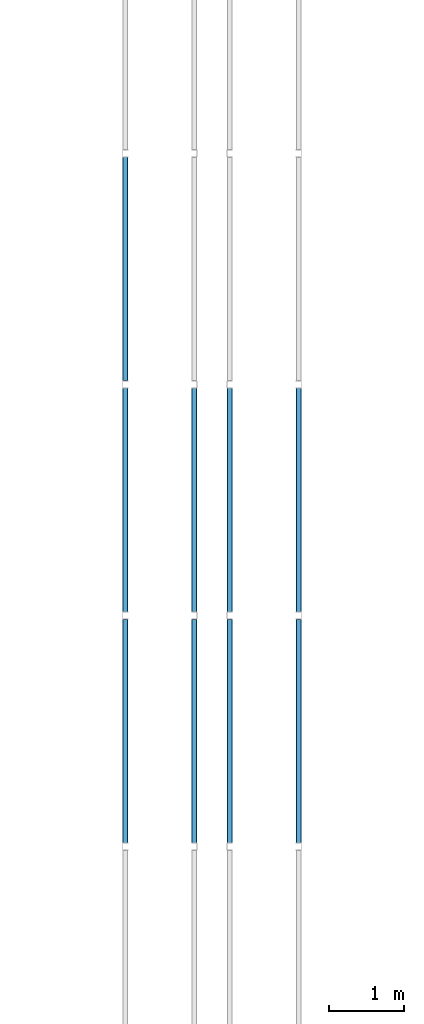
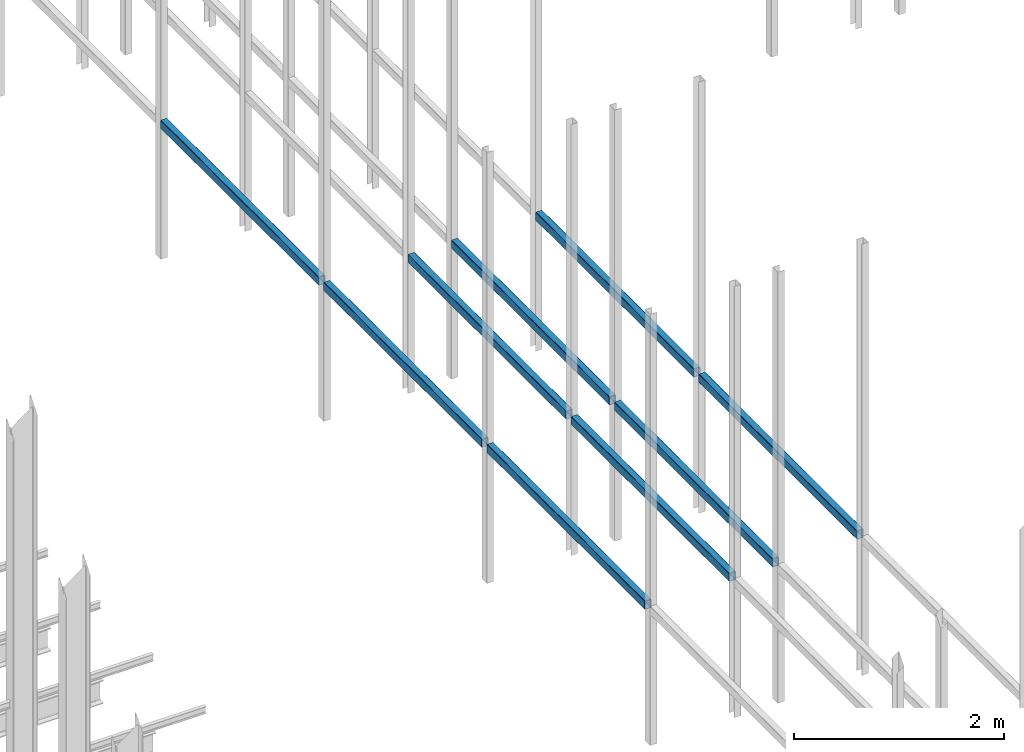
# One storey, part 177 of 302: 9 beams.
"""IFC2X3 building model written with IfcOpenShell, lengths in metres."""

from ifc_helpers import new_model, entity, si_unit, converted_unit, derived_unit, direction, frame, frame_2d, origin, place, context, subcontext, project, spatial, polyline, circle_curve, parameter, trimmed, segment, composite_curve, outline, extrude, material, type_object, element, save


model = new_model("IFC2X3")

# Units and contexts
model_context = context("Model", 3, precision=1e-05, world=origin(), true_north=direction((6.12303176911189e-17, 1.0)))
body_context = subcontext(model_context, "Body", "Model", "MODEL_VIEW")
ifc_project = project(units=[si_unit("LENGTHUNIT", "METRE"), si_unit("AREAUNIT", "SQUARE_METRE"), si_unit("VOLUMEUNIT", "CUBIC_METRE"), converted_unit("PLANEANGLEUNIT", "DEGREE", entity("IfcRatioMeasure", 0.0174532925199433), si_unit("PLANEANGLEUNIT", "RADIAN"), dimensions=[0, 0, 0, 0, 0, 0, 0]), si_unit("MASSUNIT", "GRAM", prefix="KILO"), derived_unit("MASSDENSITYUNIT", [(si_unit("MASSUNIT", "GRAM", prefix="KILO"), 1), (si_unit("LENGTHUNIT", "METRE"), -3)]), derived_unit("MOMENTOFINERTIAUNIT", [(si_unit("LENGTHUNIT", "METRE"), 4)]), si_unit("TIMEUNIT", "SECOND"), si_unit("FREQUENCYUNIT", "HERTZ"), si_unit("THERMODYNAMICTEMPERATUREUNIT", "DEGREE_CELSIUS"), derived_unit("THERMALTRANSMITTANCEUNIT", [(si_unit("MASSUNIT", "GRAM", prefix="KILO"), 1), (si_unit("THERMODYNAMICTEMPERATUREUNIT", "KELVIN"), -1), (si_unit("TIMEUNIT", "SECOND"), -3)]), derived_unit("VOLUMETRICFLOWRATEUNIT", [(si_unit("LENGTHUNIT", "METRE"), 3), (si_unit("TIMEUNIT", "SECOND"), -1)]), si_unit("ELECTRICCURRENTUNIT", "AMPERE"), si_unit("ELECTRICVOLTAGEUNIT", "VOLT"), si_unit("POWERUNIT", "WATT"), si_unit("FORCEUNIT", "NEWTON", prefix="KILO"), si_unit("ILLUMINANCEUNIT", "LUX"), si_unit("LUMINOUSFLUXUNIT", "LUMEN"), si_unit("LUMINOUSINTENSITYUNIT", "CANDELA"), derived_unit("USERDEFINED", [(si_unit("MASSUNIT", "GRAM", prefix="KILO"), -1), (si_unit("LENGTHUNIT", "METRE"), -2), (si_unit("TIMEUNIT", "SECOND"), 3), (si_unit("LUMINOUSFLUXUNIT", "LUMEN"), 1)]), derived_unit("LINEARVELOCITYUNIT", [(si_unit("LENGTHUNIT", "METRE"), 1), (si_unit("TIMEUNIT", "SECOND"), -1)]), si_unit("PRESSUREUNIT", "PASCAL"), derived_unit("USERDEFINED", [(si_unit("LENGTHUNIT", "METRE"), -2), (si_unit("MASSUNIT", "GRAM", prefix="KILO"), 1), (si_unit("TIMEUNIT", "SECOND"), -2)]), derived_unit("LINEARFORCEUNIT", [(si_unit("MASSUNIT", "GRAM", prefix="KILO"), 1), (si_unit("LENGTHUNIT", "METRE"), 1), (si_unit("TIMEUNIT", "SECOND"), -2), (si_unit("LENGTHUNIT", "METRE"), -1)]), derived_unit("PLANARFORCEUNIT", [(si_unit("MASSUNIT", "GRAM", prefix="KILO"), 1), (si_unit("LENGTHUNIT", "METRE"), 1), (si_unit("TIMEUNIT", "SECOND"), -2), (si_unit("LENGTHUNIT", "METRE"), -2)])], contexts=[model_context])

# Site, building, storey
site_placement = place(None, origin())
site = spatial("IfcSite", under=ifc_project, at=site_placement, Name="Default", CompositionType="ELEMENT")
building_placement = place(site_placement, origin())
building = spatial("IfcBuilding", under=site, at=building_placement, CompositionType="ELEMENT")
storey_placement = place(building_placement, frame((0.0, 0.0, -1.3)))
storey = spatial("IfcBuildingStorey", under=building, at=storey_placement, Name="00_EG", CompositionType="ELEMENT", Elevation=-1.3)

# Beams
ifc_material = material(Name="Metall - Baustahl S235 blau")
beam_type = type_object("IfcBeamType", Name="RHS Träger (EN 10219-2):RHS 100 x 75 x 5", PredefinedType="NOTDEFINED")
beam_1_placement = place(storey_placement, frame((-159.118311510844, 32.8480889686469, 2.885), z_axis=(0.0, 0.0, 1.0), x_axis=(0.0, 1.0, 0.0)))
element("IfcBeam", 1, at=beam_1_placement, inside=storey, type_object=beam_type, material=ifc_material, Name="RHS Träger (EN 10219-2):RHS 100 x 75 x 5", ObjectType="RHS Träger (EN 10219-2):RHS 100 x 75 x 5", context=body_context, shape_type="SweptSolid", body=[
    extrude(outline(composite_curve([segment(trimmed(circle_curve(frame_2d((-0.0274999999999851, -0.0400000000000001), x_axis=(1.0, 0.0)), 0.01), [parameter(180.0)], [parameter(270.0)], True, "PARAMETER"), True, "CONTINUOUS"), segment(polyline([(-0.0274999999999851, -0.05), (0.0274999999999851, -0.05)]), True, "CONTINUOUS"), segment(trimmed(circle_curve(frame_2d((0.0274999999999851, -0.0400000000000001), x_axis=(1.0, 0.0)), 0.01), [parameter(270.0)], [parameter(5.08888749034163e-14)], True, "PARAMETER"), True, "CONTINUOUS"), segment(polyline([(0.0375000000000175, -0.0399999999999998), (0.0375000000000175, 0.0400000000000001)]), True, "CONTINUOUS"), segment(trimmed(circle_curve(frame_2d((0.0274999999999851, 0.0399999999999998), x_axis=(1.0, 0.0)), 0.01), [parameter(360.0)], [parameter(89.9999999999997)], True, "PARAMETER"), True, "CONTINUOUS"), segment(polyline([(0.0274999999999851, 0.05), (-0.0274999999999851, 0.05)]), True, "CONTINUOUS"), segment(trimmed(circle_curve(frame_2d((-0.0274999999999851, 0.0399999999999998), x_axis=(1.0, 0.0)), 0.01), [parameter(90.0000000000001)], [parameter(180.0)], True, "PARAMETER"), True, "CONTINUOUS"), segment(polyline([(-0.0374999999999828, 0.0400000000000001), (-0.0374999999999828, -0.0399999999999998)]), True, "CONTINUOUS")], self_intersect=False), holes=[composite_curve([segment(polyline([(0.0274999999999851, -0.0450000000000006), (-0.0274999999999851, -0.0450000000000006)]), True, "CONTINUOUS"), segment(trimmed(circle_curve(frame_2d((-0.0274999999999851, -0.0400000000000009), x_axis=(1.0, 0.0)), 0.005), [parameter(180.0)], [parameter(270.0)], True, "PARAMETER"), False, "CONTINUOUS"), segment(polyline([(-0.0325000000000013, -0.0400000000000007), (-0.0325000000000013, 0.0399999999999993)]), True, "CONTINUOUS"), segment(trimmed(circle_curve(frame_2d((-0.0274999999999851, 0.039999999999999), x_axis=(1.0, 0.0)), 0.005), [parameter(90.0000000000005)], [parameter(180.0)], True, "PARAMETER"), False, "CONTINUOUS"), segment(polyline([(-0.0274999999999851, 0.0449999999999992), (0.0274999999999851, 0.0449999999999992)]), True, "CONTINUOUS"), segment(trimmed(circle_curve(frame_2d((0.0274999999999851, 0.039999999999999), x_axis=(1.0, 0.0)), 0.005), [parameter(0.0)], [parameter(90.0000000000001)], True, "PARAMETER"), False, "CONTINUOUS"), segment(polyline([(0.0325000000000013, 0.0399999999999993), (0.0325000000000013, -0.0400000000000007)]), True, "CONTINUOUS"), segment(trimmed(circle_curve(frame_2d((0.0274999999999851, -0.0400000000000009), x_axis=(1.0, 0.0)), 0.005), [parameter(270.0)], [parameter(4.07110999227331e-13)], True, "PARAMETER"), False, "CONTINUOUS")], self_intersect=False)]), frame((9.99999999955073e-05, 0.0375000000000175, -0.0500000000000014), z_axis=(1.0, 0.0, 0.0), x_axis=(0.0, -1.0, 0.0)), (0.0, 0.0, 1.0), 2.9998),
])
beam_2_placement = place(storey_placement, frame((-158.268311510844, 32.8480889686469, 2.885), z_axis=(0.0, 0.0, 1.0), x_axis=(0.0, 1.0, 0.0)))
element("IfcBeam", 2, at=beam_2_placement, inside=storey, type_object=beam_type, material=ifc_material, Name="RHS Träger (EN 10219-2):RHS 100 x 75 x 5", ObjectType="RHS Träger (EN 10219-2):RHS 100 x 75 x 5", context=body_context, shape_type="SweptSolid", body=[
    extrude(outline(composite_curve([segment(polyline([(-0.0399999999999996, -0.0375000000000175), (0.0400000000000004, -0.0375000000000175)]), True, "CONTINUOUS"), segment(trimmed(circle_curve(frame_2d((0.0400000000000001, -0.0275000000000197), x_axis=(0.0, 1.0)), 0.01), [parameter(180.0)], [parameter(270.0)], True, "PARAMETER"), True, "CONTINUOUS"), segment(polyline([(0.0500000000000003, -0.0275000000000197), (0.0500000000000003, 0.0274999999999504)]), True, "CONTINUOUS"), segment(trimmed(circle_curve(frame_2d((0.0400000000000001, 0.0274999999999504), x_axis=(0.0, 1.0)), 0.01), [parameter(270.0)], [parameter(4.07110999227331e-13)], True, "PARAMETER"), True, "CONTINUOUS"), segment(polyline([(0.0400000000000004, 0.0374999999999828), (-0.0399999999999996, 0.0374999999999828)]), True, "CONTINUOUS"), segment(trimmed(circle_curve(frame_2d((-0.0399999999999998, 0.0274999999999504), x_axis=(0.0, 1.0)), 0.01), [parameter(360.0)], [parameter(90.0000000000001)], True, "PARAMETER"), True, "CONTINUOUS"), segment(polyline([(-0.0499999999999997, 0.0274999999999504), (-0.0499999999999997, -0.0275000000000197)]), True, "CONTINUOUS"), segment(trimmed(circle_curve(frame_2d((-0.0399999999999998, -0.0275000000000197), x_axis=(0.0, 1.0)), 0.01), [parameter(90.0000000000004)], [parameter(180.0)], True, "PARAMETER"), True, "CONTINUOUS")], self_intersect=False), holes=[composite_curve([segment(trimmed(circle_curve(frame_2d((-0.0400000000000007, 0.0274999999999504), x_axis=(0.0, 1.0)), 0.005), [parameter(360.0)], [parameter(89.9999999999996)], True, "PARAMETER"), False, "CONTINUOUS"), segment(polyline([(-0.0400000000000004, 0.0324999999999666), (0.0399999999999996, 0.0324999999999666)]), True, "CONTINUOUS"), segment(trimmed(circle_curve(frame_2d((0.0399999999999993, 0.0274999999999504), x_axis=(0.0, 1.0)), 0.005), [parameter(270.0)], [parameter(0.0)], True, "PARAMETER"), False, "CONTINUOUS"), segment(polyline([(0.0449999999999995, 0.0274999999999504), (0.0449999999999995, -0.0275000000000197)]), True, "CONTINUOUS"), segment(trimmed(circle_curve(frame_2d((0.0399999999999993, -0.0275000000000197), x_axis=(0.0, 1.0)), 0.005), [parameter(180.0)], [parameter(269.999999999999)], True, "PARAMETER"), False, "CONTINUOUS"), segment(polyline([(0.0399999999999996, -0.0325000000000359), (-0.0400000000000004, -0.0325000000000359)]), True, "CONTINUOUS"), segment(trimmed(circle_curve(frame_2d((-0.0400000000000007, -0.0275000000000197), x_axis=(0.0, 1.0)), 0.005), [parameter(90.0000000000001)], [parameter(180.0)], True, "PARAMETER"), False, "CONTINUOUS"), segment(polyline([(-0.0450000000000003, -0.0275000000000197), (-0.0450000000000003, 0.0274999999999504)]), True, "CONTINUOUS")], self_intersect=False)]), frame((9.99999999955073e-05, -0.0374999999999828, -0.0500000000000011), z_axis=(1.0, 0.0, 0.0), x_axis=(0.0, 0.0, -1.0)), (0.0, 0.0, 1.0), 2.9998),
])
beam_3_placement = place(storey_placement, frame((-157.718311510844, 32.8480889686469, 2.885), z_axis=(0.0, 0.0, 1.0), x_axis=(0.0, 1.0, 0.0)))
element("IfcBeam", 3, at=beam_3_placement, inside=storey, type_object=beam_type, material=ifc_material, Name="RHS Träger (EN 10219-2):RHS 100 x 75 x 5", ObjectType="RHS Träger (EN 10219-2):RHS 100 x 75 x 5", context=body_context, shape_type="SweptSolid", body=[
    extrude(outline(composite_curve([segment(trimmed(circle_curve(frame_2d((-0.0274999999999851, -0.0400000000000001), x_axis=(1.0, 0.0)), 0.01), [parameter(180.0)], [parameter(270.0)], True, "PARAMETER"), True, "CONTINUOUS"), segment(polyline([(-0.0274999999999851, -0.05), (0.0274999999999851, -0.05)]), True, "CONTINUOUS"), segment(trimmed(circle_curve(frame_2d((0.0274999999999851, -0.0400000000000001), x_axis=(1.0, 0.0)), 0.01), [parameter(270.0)], [parameter(5.08888749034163e-14)], True, "PARAMETER"), True, "CONTINUOUS"), segment(polyline([(0.0375000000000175, -0.0399999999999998), (0.0375000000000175, 0.0400000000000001)]), True, "CONTINUOUS"), segment(trimmed(circle_curve(frame_2d((0.0274999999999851, 0.0399999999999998), x_axis=(1.0, 0.0)), 0.01), [parameter(360.0)], [parameter(89.9999999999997)], True, "PARAMETER"), True, "CONTINUOUS"), segment(polyline([(0.0274999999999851, 0.05), (-0.0274999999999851, 0.05)]), True, "CONTINUOUS"), segment(trimmed(circle_curve(frame_2d((-0.0274999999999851, 0.0399999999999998), x_axis=(1.0, 0.0)), 0.01), [parameter(90.0000000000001)], [parameter(180.0)], True, "PARAMETER"), True, "CONTINUOUS"), segment(polyline([(-0.0374999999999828, 0.0400000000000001), (-0.0374999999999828, -0.0399999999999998)]), True, "CONTINUOUS")], self_intersect=False), holes=[composite_curve([segment(polyline([(0.0274999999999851, -0.0450000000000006), (-0.0274999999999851, -0.0450000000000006)]), True, "CONTINUOUS"), segment(trimmed(circle_curve(frame_2d((-0.0274999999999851, -0.0400000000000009), x_axis=(1.0, 0.0)), 0.005), [parameter(180.0)], [parameter(270.0)], True, "PARAMETER"), False, "CONTINUOUS"), segment(polyline([(-0.0325000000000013, -0.0400000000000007), (-0.0325000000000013, 0.0399999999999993)]), True, "CONTINUOUS"), segment(trimmed(circle_curve(frame_2d((-0.0274999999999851, 0.039999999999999), x_axis=(1.0, 0.0)), 0.005), [parameter(90.0000000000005)], [parameter(180.0)], True, "PARAMETER"), False, "CONTINUOUS"), segment(polyline([(-0.0274999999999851, 0.0449999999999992), (0.0274999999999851, 0.0449999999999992)]), True, "CONTINUOUS"), segment(trimmed(circle_curve(frame_2d((0.0274999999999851, 0.039999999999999), x_axis=(1.0, 0.0)), 0.005), [parameter(0.0)], [parameter(90.0000000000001)], True, "PARAMETER"), False, "CONTINUOUS"), segment(polyline([(0.0325000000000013, 0.0399999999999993), (0.0325000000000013, -0.0400000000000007)]), True, "CONTINUOUS"), segment(trimmed(circle_curve(frame_2d((0.0274999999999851, -0.0400000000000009), x_axis=(1.0, 0.0)), 0.005), [parameter(270.0)], [parameter(4.07110999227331e-13)], True, "PARAMETER"), False, "CONTINUOUS")], self_intersect=False)]), frame((9.99999999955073e-05, 0.0375000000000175, -0.0500000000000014), z_axis=(1.0, 0.0, 0.0), x_axis=(0.0, -1.0, 0.0)), (0.0, 0.0, 1.0), 2.9998),
])
beam_4_placement = place(storey_placement, frame((-156.868311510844, 32.8480889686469, 2.885), z_axis=(0.0, 0.0, 1.0), x_axis=(0.0, 1.0, 0.0)))
element("IfcBeam", 4, at=beam_4_placement, inside=storey, type_object=beam_type, material=ifc_material, Name="RHS Träger (EN 10219-2):RHS 100 x 75 x 5", ObjectType="RHS Träger (EN 10219-2):RHS 100 x 75 x 5", context=body_context, shape_type="SweptSolid", body=[
    extrude(outline(composite_curve([segment(polyline([(-0.0399999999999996, -0.0374999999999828), (0.0400000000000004, -0.0374999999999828)]), True, "CONTINUOUS"), segment(trimmed(circle_curve(frame_2d((0.0400000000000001, -0.0274999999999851), x_axis=(0.0, 1.0)), 0.01), [parameter(180.0)], [parameter(270.0)], True, "PARAMETER"), True, "CONTINUOUS"), segment(polyline([(0.0500000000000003, -0.0274999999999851), (0.0500000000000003, 0.0274999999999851)]), True, "CONTINUOUS"), segment(trimmed(circle_curve(frame_2d((0.0400000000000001, 0.0274999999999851), x_axis=(0.0, 1.0)), 0.01), [parameter(270.0)], [parameter(4.07110999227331e-13)], True, "PARAMETER"), True, "CONTINUOUS"), segment(polyline([(0.0400000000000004, 0.0375000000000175), (-0.0399999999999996, 0.0375000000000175)]), True, "CONTINUOUS"), segment(trimmed(circle_curve(frame_2d((-0.0399999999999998, 0.0274999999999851), x_axis=(0.0, 1.0)), 0.01), [parameter(360.0)], [parameter(90.0000000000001)], True, "PARAMETER"), True, "CONTINUOUS"), segment(polyline([(-0.0499999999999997, 0.0274999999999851), (-0.0499999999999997, -0.0274999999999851)]), True, "CONTINUOUS"), segment(trimmed(circle_curve(frame_2d((-0.0399999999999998, -0.0274999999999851), x_axis=(0.0, 1.0)), 0.01), [parameter(90.0000000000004)], [parameter(180.0)], True, "PARAMETER"), True, "CONTINUOUS")], self_intersect=False), holes=[composite_curve([segment(trimmed(circle_curve(frame_2d((-0.0400000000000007, 0.0274999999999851), x_axis=(0.0, 1.0)), 0.005), [parameter(360.0)], [parameter(89.9999999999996)], True, "PARAMETER"), False, "CONTINUOUS"), segment(polyline([(-0.0400000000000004, 0.0325000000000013), (0.0399999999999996, 0.0325000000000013)]), True, "CONTINUOUS"), segment(trimmed(circle_curve(frame_2d((0.0399999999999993, 0.0274999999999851), x_axis=(0.0, 1.0)), 0.005), [parameter(270.0)], [parameter(0.0)], True, "PARAMETER"), False, "CONTINUOUS"), segment(polyline([(0.0449999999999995, 0.0274999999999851), (0.0449999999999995, -0.0274999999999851)]), True, "CONTINUOUS"), segment(trimmed(circle_curve(frame_2d((0.0399999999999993, -0.0274999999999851), x_axis=(0.0, 1.0)), 0.005), [parameter(180.0)], [parameter(269.999999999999)], True, "PARAMETER"), False, "CONTINUOUS"), segment(polyline([(0.0399999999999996, -0.0325000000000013), (-0.0400000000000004, -0.0325000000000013)]), True, "CONTINUOUS"), segment(trimmed(circle_curve(frame_2d((-0.0400000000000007, -0.0274999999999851), x_axis=(0.0, 1.0)), 0.005), [parameter(90.0000000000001)], [parameter(180.0)], True, "PARAMETER"), False, "CONTINUOUS"), segment(polyline([(-0.0450000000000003, -0.0274999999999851), (-0.0450000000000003, 0.0274999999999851)]), True, "CONTINUOUS")], self_intersect=False)]), frame((9.99999999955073e-05, -0.0375000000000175, -0.0500000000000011), z_axis=(1.0, 0.0, 0.0), x_axis=(0.0, 0.0, -1.0)), (0.0, 0.0, 1.0), 2.9998),
])
beam_5_placement = place(storey_placement, frame((-159.118311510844, 35.9480889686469, 2.885), z_axis=(0.0, 0.0, 1.0), x_axis=(0.0, 1.0, 0.0)))
element("IfcBeam", 5, at=beam_5_placement, inside=storey, type_object=beam_type, material=ifc_material, Name="RHS Träger (EN 10219-2):RHS 100 x 75 x 5", ObjectType="RHS Träger (EN 10219-2):RHS 100 x 75 x 5", context=body_context, shape_type="SweptSolid", body=[
    extrude(outline(composite_curve([segment(trimmed(circle_curve(frame_2d((-0.0274999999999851, -0.0400000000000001), x_axis=(1.0, 0.0)), 0.01), [parameter(180.0)], [parameter(270.0)], True, "PARAMETER"), True, "CONTINUOUS"), segment(polyline([(-0.0274999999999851, -0.05), (0.0274999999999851, -0.05)]), True, "CONTINUOUS"), segment(trimmed(circle_curve(frame_2d((0.0274999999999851, -0.0400000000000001), x_axis=(1.0, 0.0)), 0.01), [parameter(270.0)], [parameter(5.08888749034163e-14)], True, "PARAMETER"), True, "CONTINUOUS"), segment(polyline([(0.0375000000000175, -0.0399999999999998), (0.0375000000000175, 0.0400000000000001)]), True, "CONTINUOUS"), segment(trimmed(circle_curve(frame_2d((0.0274999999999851, 0.0399999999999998), x_axis=(1.0, 0.0)), 0.01), [parameter(360.0)], [parameter(89.9999999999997)], True, "PARAMETER"), True, "CONTINUOUS"), segment(polyline([(0.0274999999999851, 0.05), (-0.0274999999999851, 0.05)]), True, "CONTINUOUS"), segment(trimmed(circle_curve(frame_2d((-0.0274999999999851, 0.0399999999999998), x_axis=(1.0, 0.0)), 0.01), [parameter(90.0000000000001)], [parameter(180.0)], True, "PARAMETER"), True, "CONTINUOUS"), segment(polyline([(-0.0374999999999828, 0.0400000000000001), (-0.0374999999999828, -0.0399999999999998)]), True, "CONTINUOUS")], self_intersect=False), holes=[composite_curve([segment(polyline([(0.0274999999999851, -0.0450000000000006), (-0.0274999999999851, -0.0450000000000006)]), True, "CONTINUOUS"), segment(trimmed(circle_curve(frame_2d((-0.0274999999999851, -0.0400000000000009), x_axis=(1.0, 0.0)), 0.005), [parameter(180.0)], [parameter(270.0)], True, "PARAMETER"), False, "CONTINUOUS"), segment(polyline([(-0.0325000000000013, -0.0400000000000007), (-0.0325000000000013, 0.0399999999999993)]), True, "CONTINUOUS"), segment(trimmed(circle_curve(frame_2d((-0.0274999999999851, 0.039999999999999), x_axis=(1.0, 0.0)), 0.005), [parameter(90.0000000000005)], [parameter(180.0)], True, "PARAMETER"), False, "CONTINUOUS"), segment(polyline([(-0.0274999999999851, 0.0449999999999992), (0.0274999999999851, 0.0449999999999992)]), True, "CONTINUOUS"), segment(trimmed(circle_curve(frame_2d((0.0274999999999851, 0.039999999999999), x_axis=(1.0, 0.0)), 0.005), [parameter(0.0)], [parameter(90.0000000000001)], True, "PARAMETER"), False, "CONTINUOUS"), segment(polyline([(0.0325000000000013, 0.0399999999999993), (0.0325000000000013, -0.0400000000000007)]), True, "CONTINUOUS"), segment(trimmed(circle_curve(frame_2d((0.0274999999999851, -0.0400000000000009), x_axis=(1.0, 0.0)), 0.005), [parameter(270.0)], [parameter(4.07110999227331e-13)], True, "PARAMETER"), False, "CONTINUOUS")], self_intersect=False)]), frame((9.99999999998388e-05, 0.0375000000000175, -0.0500000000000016), z_axis=(1.0, 0.0, 0.0), x_axis=(0.0, -1.0, 0.0)), (0.0, 0.0, 1.0), 2.9998),
])
beam_6_placement = place(storey_placement, frame((-158.268311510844, 35.9480889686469, 2.885), z_axis=(0.0, 0.0, 1.0), x_axis=(0.0, 1.0, 0.0)))
element("IfcBeam", 6, at=beam_6_placement, inside=storey, type_object=beam_type, material=ifc_material, Name="RHS Träger (EN 10219-2):RHS 100 x 75 x 5", ObjectType="RHS Träger (EN 10219-2):RHS 100 x 75 x 5", context=body_context, shape_type="SweptSolid", body=[
    extrude(outline(composite_curve([segment(polyline([(-0.0399999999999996, -0.0375000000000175), (0.0400000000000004, -0.0375000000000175)]), True, "CONTINUOUS"), segment(trimmed(circle_curve(frame_2d((0.0400000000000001, -0.0275000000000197), x_axis=(0.0, 1.0)), 0.01), [parameter(180.0)], [parameter(270.0)], True, "PARAMETER"), True, "CONTINUOUS"), segment(polyline([(0.0500000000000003, -0.0275000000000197), (0.0500000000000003, 0.0274999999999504)]), True, "CONTINUOUS"), segment(trimmed(circle_curve(frame_2d((0.0400000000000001, 0.0274999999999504), x_axis=(0.0, 1.0)), 0.01), [parameter(270.0)], [parameter(4.07110999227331e-13)], True, "PARAMETER"), True, "CONTINUOUS"), segment(polyline([(0.0400000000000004, 0.0374999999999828), (-0.0399999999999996, 0.0374999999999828)]), True, "CONTINUOUS"), segment(trimmed(circle_curve(frame_2d((-0.0399999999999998, 0.0274999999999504), x_axis=(0.0, 1.0)), 0.01), [parameter(360.0)], [parameter(90.0000000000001)], True, "PARAMETER"), True, "CONTINUOUS"), segment(polyline([(-0.0499999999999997, 0.0274999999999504), (-0.0499999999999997, -0.0275000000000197)]), True, "CONTINUOUS"), segment(trimmed(circle_curve(frame_2d((-0.0399999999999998, -0.0275000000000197), x_axis=(0.0, 1.0)), 0.01), [parameter(90.0000000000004)], [parameter(180.0)], True, "PARAMETER"), True, "CONTINUOUS")], self_intersect=False), holes=[composite_curve([segment(trimmed(circle_curve(frame_2d((-0.0400000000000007, 0.0274999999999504), x_axis=(0.0, 1.0)), 0.005), [parameter(360.0)], [parameter(89.9999999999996)], True, "PARAMETER"), False, "CONTINUOUS"), segment(polyline([(-0.0400000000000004, 0.0324999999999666), (0.0399999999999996, 0.0324999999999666)]), True, "CONTINUOUS"), segment(trimmed(circle_curve(frame_2d((0.0399999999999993, 0.0274999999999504), x_axis=(0.0, 1.0)), 0.005), [parameter(270.0)], [parameter(0.0)], True, "PARAMETER"), False, "CONTINUOUS"), segment(polyline([(0.0449999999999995, 0.0274999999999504), (0.0449999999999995, -0.0275000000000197)]), True, "CONTINUOUS"), segment(trimmed(circle_curve(frame_2d((0.0399999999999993, -0.0275000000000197), x_axis=(0.0, 1.0)), 0.005), [parameter(180.0)], [parameter(269.999999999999)], True, "PARAMETER"), False, "CONTINUOUS"), segment(polyline([(0.0399999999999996, -0.0325000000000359), (-0.0400000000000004, -0.0325000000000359)]), True, "CONTINUOUS"), segment(trimmed(circle_curve(frame_2d((-0.0400000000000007, -0.0275000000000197), x_axis=(0.0, 1.0)), 0.005), [parameter(90.0000000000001)], [parameter(180.0)], True, "PARAMETER"), False, "CONTINUOUS"), segment(polyline([(-0.0450000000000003, -0.0275000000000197), (-0.0450000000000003, 0.0274999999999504)]), True, "CONTINUOUS")], self_intersect=False)]), frame((9.99999999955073e-05, -0.0374999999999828, -0.0500000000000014), z_axis=(1.0, 0.0, 0.0), x_axis=(0.0, 0.0, -1.0)), (0.0, 0.0, 1.0), 2.9998),
])
beam_7_placement = place(storey_placement, frame((-157.718311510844, 35.9480889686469, 2.885), z_axis=(0.0, 0.0, 1.0), x_axis=(0.0, 1.0, 0.0)))
element("IfcBeam", 7, at=beam_7_placement, inside=storey, type_object=beam_type, material=ifc_material, Name="RHS Träger (EN 10219-2):RHS 100 x 75 x 5", ObjectType="RHS Träger (EN 10219-2):RHS 100 x 75 x 5", context=body_context, shape_type="SweptSolid", body=[
    extrude(outline(composite_curve([segment(trimmed(circle_curve(frame_2d((-0.0274999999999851, -0.0400000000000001), x_axis=(1.0, 0.0)), 0.01), [parameter(180.0)], [parameter(270.0)], True, "PARAMETER"), True, "CONTINUOUS"), segment(polyline([(-0.0274999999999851, -0.05), (0.0274999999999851, -0.05)]), True, "CONTINUOUS"), segment(trimmed(circle_curve(frame_2d((0.0274999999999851, -0.0400000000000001), x_axis=(1.0, 0.0)), 0.01), [parameter(270.0)], [parameter(5.08888749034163e-14)], True, "PARAMETER"), True, "CONTINUOUS"), segment(polyline([(0.0375000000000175, -0.0399999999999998), (0.0375000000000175, 0.0400000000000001)]), True, "CONTINUOUS"), segment(trimmed(circle_curve(frame_2d((0.0274999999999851, 0.0399999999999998), x_axis=(1.0, 0.0)), 0.01), [parameter(360.0)], [parameter(89.9999999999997)], True, "PARAMETER"), True, "CONTINUOUS"), segment(polyline([(0.0274999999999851, 0.05), (-0.0274999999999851, 0.05)]), True, "CONTINUOUS"), segment(trimmed(circle_curve(frame_2d((-0.0274999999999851, 0.0399999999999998), x_axis=(1.0, 0.0)), 0.01), [parameter(90.0000000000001)], [parameter(180.0)], True, "PARAMETER"), True, "CONTINUOUS"), segment(polyline([(-0.0374999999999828, 0.0400000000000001), (-0.0374999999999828, -0.0399999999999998)]), True, "CONTINUOUS")], self_intersect=False), holes=[composite_curve([segment(polyline([(0.0274999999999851, -0.0450000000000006), (-0.0274999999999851, -0.0450000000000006)]), True, "CONTINUOUS"), segment(trimmed(circle_curve(frame_2d((-0.0274999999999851, -0.0400000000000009), x_axis=(1.0, 0.0)), 0.005), [parameter(180.0)], [parameter(270.0)], True, "PARAMETER"), False, "CONTINUOUS"), segment(polyline([(-0.0325000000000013, -0.0400000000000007), (-0.0325000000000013, 0.0399999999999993)]), True, "CONTINUOUS"), segment(trimmed(circle_curve(frame_2d((-0.0274999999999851, 0.039999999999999), x_axis=(1.0, 0.0)), 0.005), [parameter(90.0000000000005)], [parameter(180.0)], True, "PARAMETER"), False, "CONTINUOUS"), segment(polyline([(-0.0274999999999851, 0.0449999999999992), (0.0274999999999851, 0.0449999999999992)]), True, "CONTINUOUS"), segment(trimmed(circle_curve(frame_2d((0.0274999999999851, 0.039999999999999), x_axis=(1.0, 0.0)), 0.005), [parameter(0.0)], [parameter(90.0000000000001)], True, "PARAMETER"), False, "CONTINUOUS"), segment(polyline([(0.0325000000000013, 0.0399999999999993), (0.0325000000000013, -0.0400000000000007)]), True, "CONTINUOUS"), segment(trimmed(circle_curve(frame_2d((0.0274999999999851, -0.0400000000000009), x_axis=(1.0, 0.0)), 0.005), [parameter(270.0)], [parameter(4.07110999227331e-13)], True, "PARAMETER"), False, "CONTINUOUS")], self_intersect=False)]), frame((9.99999999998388e-05, 0.0375000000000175, -0.0500000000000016), z_axis=(1.0, 0.0, 0.0), x_axis=(0.0, -1.0, 0.0)), (0.0, 0.0, 1.0), 2.9998),
])
beam_8_placement = place(storey_placement, frame((-156.868311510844, 35.9480889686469, 2.885), z_axis=(0.0, 0.0, 1.0), x_axis=(0.0, 1.0, 0.0)))
element("IfcBeam", 8, at=beam_8_placement, inside=storey, type_object=beam_type, material=ifc_material, Name="RHS Träger (EN 10219-2):RHS 100 x 75 x 5", ObjectType="RHS Träger (EN 10219-2):RHS 100 x 75 x 5", context=body_context, shape_type="SweptSolid", body=[
    extrude(outline(composite_curve([segment(polyline([(-0.0399999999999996, -0.0374999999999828), (0.0400000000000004, -0.0374999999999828)]), True, "CONTINUOUS"), segment(trimmed(circle_curve(frame_2d((0.0400000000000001, -0.0274999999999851), x_axis=(0.0, 1.0)), 0.01), [parameter(180.0)], [parameter(270.0)], True, "PARAMETER"), True, "CONTINUOUS"), segment(polyline([(0.0500000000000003, -0.0274999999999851), (0.0500000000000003, 0.0274999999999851)]), True, "CONTINUOUS"), segment(trimmed(circle_curve(frame_2d((0.0400000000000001, 0.0274999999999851), x_axis=(0.0, 1.0)), 0.01), [parameter(270.0)], [parameter(4.07110999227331e-13)], True, "PARAMETER"), True, "CONTINUOUS"), segment(polyline([(0.0400000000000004, 0.0375000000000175), (-0.0399999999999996, 0.0375000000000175)]), True, "CONTINUOUS"), segment(trimmed(circle_curve(frame_2d((-0.0399999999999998, 0.0274999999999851), x_axis=(0.0, 1.0)), 0.01), [parameter(360.0)], [parameter(90.0000000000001)], True, "PARAMETER"), True, "CONTINUOUS"), segment(polyline([(-0.0499999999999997, 0.0274999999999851), (-0.0499999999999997, -0.0274999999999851)]), True, "CONTINUOUS"), segment(trimmed(circle_curve(frame_2d((-0.0399999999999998, -0.0274999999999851), x_axis=(0.0, 1.0)), 0.01), [parameter(90.0000000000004)], [parameter(180.0)], True, "PARAMETER"), True, "CONTINUOUS")], self_intersect=False), holes=[composite_curve([segment(trimmed(circle_curve(frame_2d((-0.0400000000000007, 0.0274999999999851), x_axis=(0.0, 1.0)), 0.005), [parameter(360.0)], [parameter(89.9999999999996)], True, "PARAMETER"), False, "CONTINUOUS"), segment(polyline([(-0.0400000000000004, 0.0325000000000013), (0.0399999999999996, 0.0325000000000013)]), True, "CONTINUOUS"), segment(trimmed(circle_curve(frame_2d((0.0399999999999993, 0.0274999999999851), x_axis=(0.0, 1.0)), 0.005), [parameter(270.0)], [parameter(0.0)], True, "PARAMETER"), False, "CONTINUOUS"), segment(polyline([(0.0449999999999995, 0.0274999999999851), (0.0449999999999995, -0.0274999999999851)]), True, "CONTINUOUS"), segment(trimmed(circle_curve(frame_2d((0.0399999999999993, -0.0274999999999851), x_axis=(0.0, 1.0)), 0.005), [parameter(180.0)], [parameter(269.999999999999)], True, "PARAMETER"), False, "CONTINUOUS"), segment(polyline([(0.0399999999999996, -0.0325000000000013), (-0.0400000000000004, -0.0325000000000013)]), True, "CONTINUOUS"), segment(trimmed(circle_curve(frame_2d((-0.0400000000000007, -0.0274999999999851), x_axis=(0.0, 1.0)), 0.005), [parameter(90.0000000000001)], [parameter(180.0)], True, "PARAMETER"), False, "CONTINUOUS"), segment(polyline([(-0.0450000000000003, -0.0274999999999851), (-0.0450000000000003, 0.0274999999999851)]), True, "CONTINUOUS")], self_intersect=False)]), frame((9.99999999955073e-05, -0.0375000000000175, -0.0500000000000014), z_axis=(1.0, 0.0, 0.0), x_axis=(0.0, 0.0, -1.0)), (0.0, 0.0, 1.0), 2.9998),
])
beam_9_placement = place(storey_placement, frame((-159.118311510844, 39.0480889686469, 2.885), z_axis=(0.0, 0.0, 1.0), x_axis=(0.0, 1.0, 0.0)))
element("IfcBeam", 9, at=beam_9_placement, inside=storey, type_object=beam_type, material=ifc_material, Name="RHS Träger (EN 10219-2):RHS 100 x 75 x 5", ObjectType="RHS Träger (EN 10219-2):RHS 100 x 75 x 5", context=body_context, shape_type="SweptSolid", body=[
    extrude(outline(composite_curve([segment(trimmed(circle_curve(frame_2d((-0.0274999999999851, -0.0400000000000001), x_axis=(1.0, 0.0)), 0.01), [parameter(180.0)], [parameter(270.0)], True, "PARAMETER"), True, "CONTINUOUS"), segment(polyline([(-0.0274999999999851, -0.05), (0.0274999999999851, -0.05)]), True, "CONTINUOUS"), segment(trimmed(circle_curve(frame_2d((0.0274999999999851, -0.0400000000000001), x_axis=(1.0, 0.0)), 0.01), [parameter(270.0)], [parameter(5.08888749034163e-14)], True, "PARAMETER"), True, "CONTINUOUS"), segment(polyline([(0.0375000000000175, -0.0399999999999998), (0.0375000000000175, 0.0400000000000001)]), True, "CONTINUOUS"), segment(trimmed(circle_curve(frame_2d((0.0274999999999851, 0.0399999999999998), x_axis=(1.0, 0.0)), 0.01), [parameter(360.0)], [parameter(89.9999999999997)], True, "PARAMETER"), True, "CONTINUOUS"), segment(polyline([(0.0274999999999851, 0.05), (-0.0274999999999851, 0.05)]), True, "CONTINUOUS"), segment(trimmed(circle_curve(frame_2d((-0.0274999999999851, 0.0399999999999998), x_axis=(1.0, 0.0)), 0.01), [parameter(90.0000000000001)], [parameter(180.0)], True, "PARAMETER"), True, "CONTINUOUS"), segment(polyline([(-0.0374999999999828, 0.0400000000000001), (-0.0374999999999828, -0.0399999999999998)]), True, "CONTINUOUS")], self_intersect=False), holes=[composite_curve([segment(polyline([(0.0274999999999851, -0.0450000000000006), (-0.0274999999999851, -0.0450000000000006)]), True, "CONTINUOUS"), segment(trimmed(circle_curve(frame_2d((-0.0274999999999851, -0.0400000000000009), x_axis=(1.0, 0.0)), 0.005), [parameter(180.0)], [parameter(270.0)], True, "PARAMETER"), False, "CONTINUOUS"), segment(polyline([(-0.0325000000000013, -0.0400000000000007), (-0.0325000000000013, 0.0399999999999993)]), True, "CONTINUOUS"), segment(trimmed(circle_curve(frame_2d((-0.0274999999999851, 0.039999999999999), x_axis=(1.0, 0.0)), 0.005), [parameter(90.0000000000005)], [parameter(180.0)], True, "PARAMETER"), False, "CONTINUOUS"), segment(polyline([(-0.0274999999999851, 0.0449999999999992), (0.0274999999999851, 0.0449999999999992)]), True, "CONTINUOUS"), segment(trimmed(circle_curve(frame_2d((0.0274999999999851, 0.039999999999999), x_axis=(1.0, 0.0)), 0.005), [parameter(0.0)], [parameter(90.0000000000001)], True, "PARAMETER"), False, "CONTINUOUS"), segment(polyline([(0.0325000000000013, 0.0399999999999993), (0.0325000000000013, -0.0400000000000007)]), True, "CONTINUOUS"), segment(trimmed(circle_curve(frame_2d((0.0274999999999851, -0.0400000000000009), x_axis=(1.0, 0.0)), 0.005), [parameter(270.0)], [parameter(4.07110999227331e-13)], True, "PARAMETER"), False, "CONTINUOUS")], self_intersect=False)]), frame((9.99999999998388e-05, 0.0375000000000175, -0.0500000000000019), z_axis=(1.0, 0.0, 0.0), x_axis=(0.0, -1.0, 0.0)), (0.0, 0.0, 1.0), 2.99979999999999),
])

save(model, "model.ifc")
